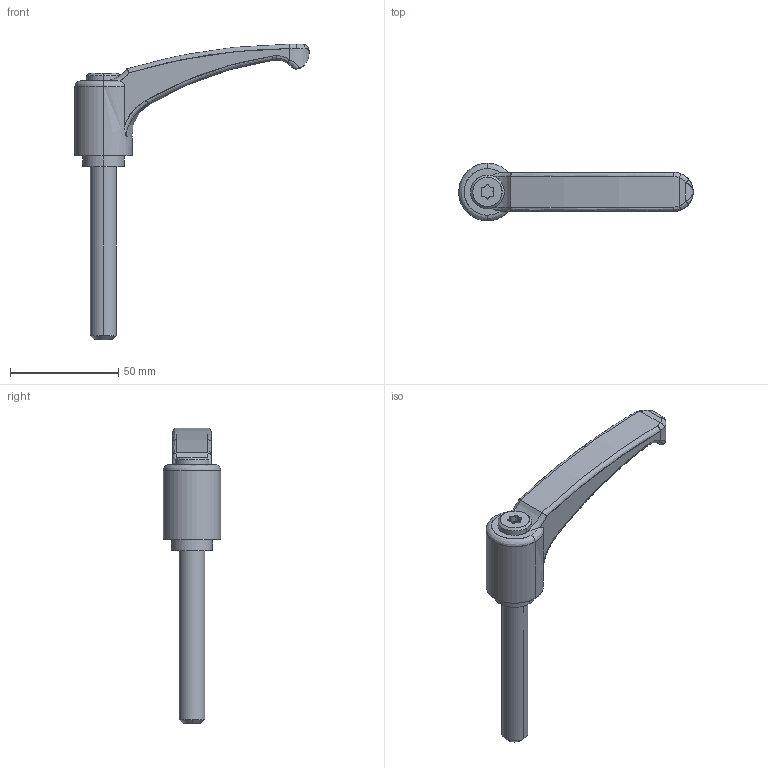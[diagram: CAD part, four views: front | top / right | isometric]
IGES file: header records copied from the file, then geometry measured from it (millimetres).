
Start section: SolidWorks IGES file using analytic representation for surfaces
Global section: file name: X:\11_SW2020-Inv2020\00_全2021-11新製品まで\e\EALA95BX80\eala95bx80.IGS; native system: SolidWorks 2020; preprocessor: SolidWorks 2020; author: ImaoCorp; date: 211025.104713; units: millimetre
Bounding box: 108.25 x 26.5 x 136.5 mm (x, y, z)
Surface area: 12086 mm2 (no closed solid volume)
Topology: 0 solids, 0 shells, 75 faces, 1034 edges, 1032 vertices
Faces by surface type: revolution 39, bspline 36
